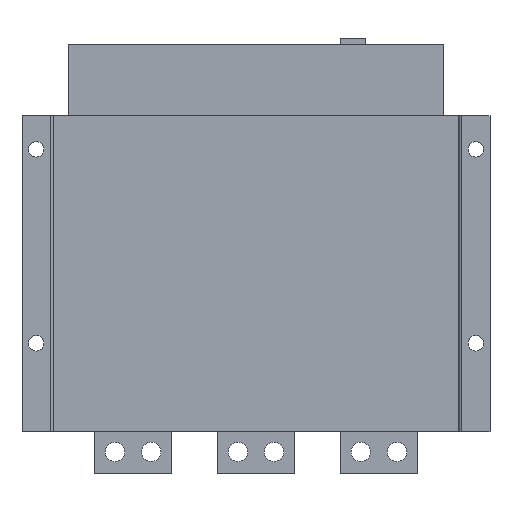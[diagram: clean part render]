
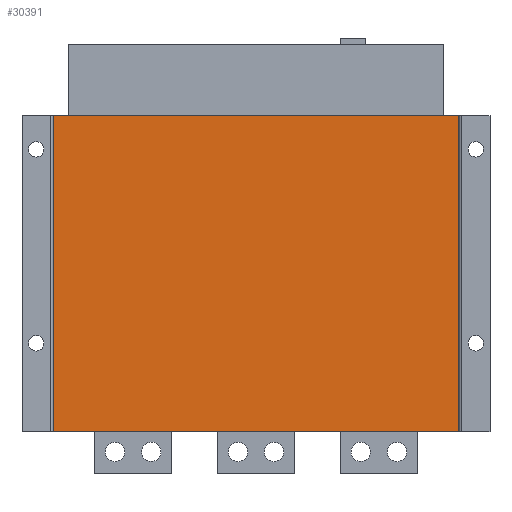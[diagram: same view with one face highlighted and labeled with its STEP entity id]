
A CAD part, front view. The second image highlights one B-rep face of the part: STEP entity #30391.
In plain terms, the highlighted planar face has unit normal (0, -1, 0).
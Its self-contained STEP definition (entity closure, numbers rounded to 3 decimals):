
#744 = CARTESIAN_POINT ( 'NONE',  ( 0., 15., -244.5 ) ) ;
#821 = EDGE_CURVE ( 'NONE', #11249, #30773, #35975, .T. ) ;
#2154 = AXIS2_PLACEMENT_3D ( 'NONE', #744, #20256, #3554 ) ;
#3244 = DIRECTION ( 'NONE',  ( 0., 0., 1. ) ) ;
#3554 = DIRECTION ( 'NONE',  ( 0., 0., -1. ) ) ;
#4033 = CARTESIAN_POINT ( 'NONE',  ( -159., 15., 0. ) ) ;
#4606 = DIRECTION ( 'NONE',  ( 0., 0., 1. ) ) ;
#6251 = LINE ( 'NONE', #19083, #34224 ) ;
#7399 = FACE_OUTER_BOUND ( 'NONE', #18914, .T. ) ;
#9079 = EDGE_CURVE ( 'NONE', #11249, #28628, #28165, .T. ) ;
#9107 = CARTESIAN_POINT ( 'NONE',  ( 159., 15., -244.5 ) ) ;
#11249 = VERTEX_POINT ( 'NONE', #29159 ) ;
#13769 = VECTOR ( 'NONE', #3244, 1000. ) ;
#14953 = CARTESIAN_POINT ( 'NONE',  ( -159., 15., -244.5 ) ) ;
#15997 = LINE ( 'NONE', #9107, #13769 ) ;
#16875 = CARTESIAN_POINT ( 'NONE',  ( 159., 15., 0. ) ) ;
#18634 = CARTESIAN_POINT ( 'NONE',  ( 0., 15., -244.5 ) ) ;
#18914 = EDGE_LOOP ( 'NONE', ( #25882, #21744, #23034, #22532 ) ) ;
#19023 = VECTOR ( 'NONE', #24121, 1000. ) ;
#19083 = CARTESIAN_POINT ( 'NONE',  ( 0., 15., 0. ) ) ;
#20050 = CARTESIAN_POINT ( 'NONE',  ( 159., 15., -244.5 ) ) ;
#20256 = DIRECTION ( 'NONE',  ( 0., -1., 0. ) ) ;
#20327 = EDGE_CURVE ( 'NONE', #30773, #30670, #6251, .T. ) ;
#21532 = DIRECTION ( 'NONE',  ( 1., 0., 0. ) ) ;
#21744 = ORIENTED_EDGE ( 'NONE', *, *, #821, .F. ) ;
#22532 = ORIENTED_EDGE ( 'NONE', *, *, #35438, .T. ) ;
#23034 = ORIENTED_EDGE ( 'NONE', *, *, #9079, .T. ) ;
#24121 = DIRECTION ( 'NONE',  ( 1., 0., 0. ) ) ;
#25882 = ORIENTED_EDGE ( 'NONE', *, *, #20327, .F. ) ;
#26335 = VECTOR ( 'NONE', #4606, 1000. ) ;
#28165 = LINE ( 'NONE', #18634, #19023 ) ;
#28628 = VERTEX_POINT ( 'NONE', #20050 ) ;
#28717 = PLANE ( 'NONE',  #2154 ) ;
#29159 = CARTESIAN_POINT ( 'NONE',  ( -159., 15., -244.5 ) ) ;
#30391 = ADVANCED_FACE ( 'NONE', ( #7399 ), #28717, .T. ) ;
#30670 = VERTEX_POINT ( 'NONE', #16875 ) ;
#30773 = VERTEX_POINT ( 'NONE', #4033 ) ;
#34224 = VECTOR ( 'NONE', #21532, 1000. ) ;
#35438 = EDGE_CURVE ( 'NONE', #28628, #30670, #15997, .T. ) ;
#35975 = LINE ( 'NONE', #14953, #26335 ) ;
